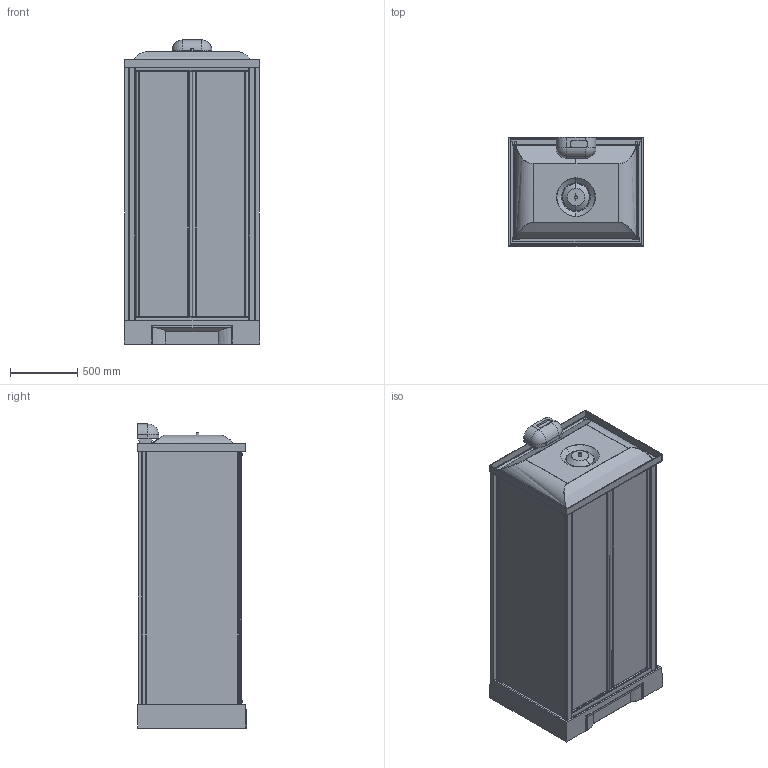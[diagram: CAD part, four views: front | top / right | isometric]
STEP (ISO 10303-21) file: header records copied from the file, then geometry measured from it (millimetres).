
FILE_DESCRIPTION(('STEP AP203'),'2;1');
FILE_NAME('NNH 2F 100 T 19 N.stp','2015-09-04T14:46:05',(''),(''),'2014.1.117','THINKDESIGN','');
FILE_SCHEMA(('CONFIG_CONTROL_DESIGN'));
Length unit declared in the file: millimetre
Products named in the file (1): top
Bounding box: 1004.04 x 807.72 x 2255 mm (x, y, z)
Volume: 185334191.7 mm3; surface area: 20900834.3 mm2
Topology: 41 solids, 41 shells, 771 faces, 1938 edges, 1268 vertices
Faces by surface type: plane 344, bspline 330, cylinder 97
Entity records: 59853 total; most frequent: CARTESIAN_POINT 43908, ORIENTED_EDGE 3688, DIRECTION 2369, EDGE_CURVE 1844, VERTEX_POINT 1195, VECTOR 909, LINE 909, EDGE_LOOP 787
